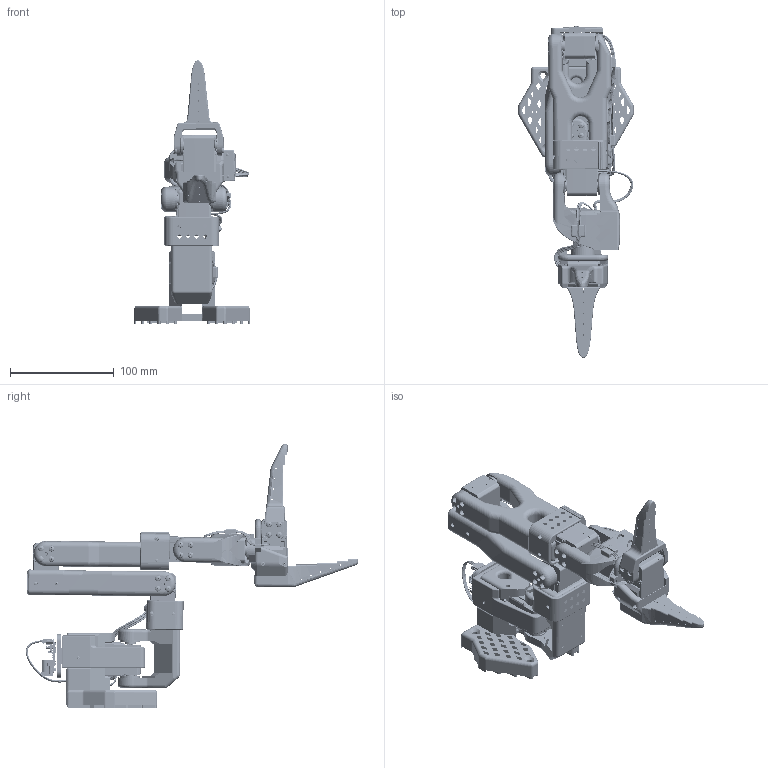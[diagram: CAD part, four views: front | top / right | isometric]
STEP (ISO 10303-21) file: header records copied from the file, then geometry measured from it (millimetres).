
FILE_DESCRIPTION(/* description */ (''),/* implementation_level */ '2;1');
FILE_NAME(/* name */ 'SO101 Assembly_.step',/* time_stamp */ '2025-10-20T13:15:59+08:00',/* author */ (''),/* organization */ (''),/* preprocessor_version */ 'ST-DEVELOPER v20.1',/* originating_system */ 'Autodesk Translation Framework v14.17.0.0',/* authorisation */ '');
FILE_SCHEMA (('AUTOMOTIVE_DESIGN { 1 0 10303 214 3 1 1 }'));
Products named in the file (88): SO101 Assembly; Base_SO101; Rotation_Pitch_SO101; Upper_arm_SO101; Under_arm_SO101; Base_08p; Motor_holder_SO101_Base; Motor_holder_SO101_Wrist; Wrist_Roll_Pitch_SO100; Wrist_Roll_Follower_SO101; Moving_Jaw_SO101; DIN 555 - M3 Steel 6 Plain; DIN 934 - M3 x 0.5 Steel 6 Plain; Сборка14; SCS215_7; Сборка14_1; SCS215_7_1; Сборка14_2; SCS215_7_2; Сборка14_3; SCS215_7_3; Сборка14_4; SCS215_7_4; Сборка14_5; SCS215_7_5; ZK_122; SG-ZIJI_15; XG-ZIJI_16; MOTOR-1723_3; PCB-CHAZUO_92; GE_27; 金属舵盘（驱动）; 金属舵盘（从动）; Component1; Component2; Component3; Component4; Component6; Component7; CRFHTSTATI ANSI B18.6.4 - 0-48 x 3/16 Steel Grade 2 Plain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
Assembly tree (217 placements, depth 4):
  SO101 Assembly
    Base_SO101
    Rotation_Pitch_SO101
    Upper_arm_SO101
    Under_arm_SO101
    Base_08p
    Motor_holder_SO101_Base
    Motor_holder_SO101_Wrist
    Wrist_Roll_Pitch_SO100
    Wrist_Roll_Follower_SO101
    Moving_Jaw_SO101
    CRFHTSTATI ANSI B18.6.4 - 1-42 x 3/16 Steel Grade 2 Plain  x22
    CRFHTSTATI ANSI B18.6.4 - 0-48 x 3/16 Steel Grade 2 Plain  x2
    DIN EN ISO 7045 - M3 x 6 - H Steel 4.6 Plain  x45
    DIN 555 - M3 Steel 6 Plain
    DIN 934 - M3 x 0.5 Steel 6 Plain
    Сборка14
      SCS215_7
        ZK_122
        SG-ZIJI_15
        XG-ZIJI_16
        MOTOR-1723_3
        PCB-CHAZUO_92
        GE_27
        金属舵盘（驱动）
        金属舵盘（从动）
    Сборка14_1
      SCS215_7_1
        ZK_122
        SG-ZIJI_15
        XG-ZIJI_16
        MOTOR-1723_3
        PCB-CHAZUO_92
        GE_27
        金属舵盘（驱动）
        金属舵盘（从动）
    Сборка14_2
      SCS215_7_2
        ZK_122
        SG-ZIJI_15
        XG-ZIJI_16
        MOTOR-1723_3
        PCB-CHAZUO_92
        GE_27
        金属舵盘（驱动）
        金属舵盘（从动）
    Сборка14_3
      SCS215_7_3
        ZK_122
        SG-ZIJI_15
        XG-ZIJI_16
        MOTOR-1723_3
        PCB-CHAZUO_92
        GE_27
        金属舵盘（驱动）
        金属舵盘（从动）
    Сборка14_4
      SCS215_7_4
        ZK_122
        SG-ZIJI_15
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Bounding box: 110.92 x 319.35 x 253.43 mm (x, y, z)
Volume: 834799 mm3; surface area: 342757.2 mm2
Topology: 343 solids, 404 shells, 27237 faces, 72855 edges, 47408 vertices
Faces by surface type: plane 14728, bspline 5654, cylinder 5428, torus 504, cone 501, sphere 422
Full cylindrical faces by diameter (mm): 0.2 x1, 0.24 x2, 0.25 x4, 0.261 x1, 0.5 x2, 0.7 x14, 0.75 x6, 0.82 x3, 0.9 x3, 1 x6, 1.2 x6, 1.448 x2, 1.5 x21, 1.6 x72, 1.8 x1, 1.829 x22, 2 x15, 2.1 x8, 2.2 x42, 2.4 x1, 2.438 x2, 2.5 x194, 2.529 x2, 2.6 x6, 2.729 x45, 2.927 x45, 2.997 x22, 3.2 x16, 3.5 x18, 4 x8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
Entity records: 439093 total; most frequent: CARTESIAN_POINT 149984, ORIENTED_EDGE 62092, DIRECTION 51877, EDGE_CURVE 31046, LINE 20911, VECTOR 20911, VERTEX_POINT 20231, AXIS2_PLACEMENT_3D 15483
